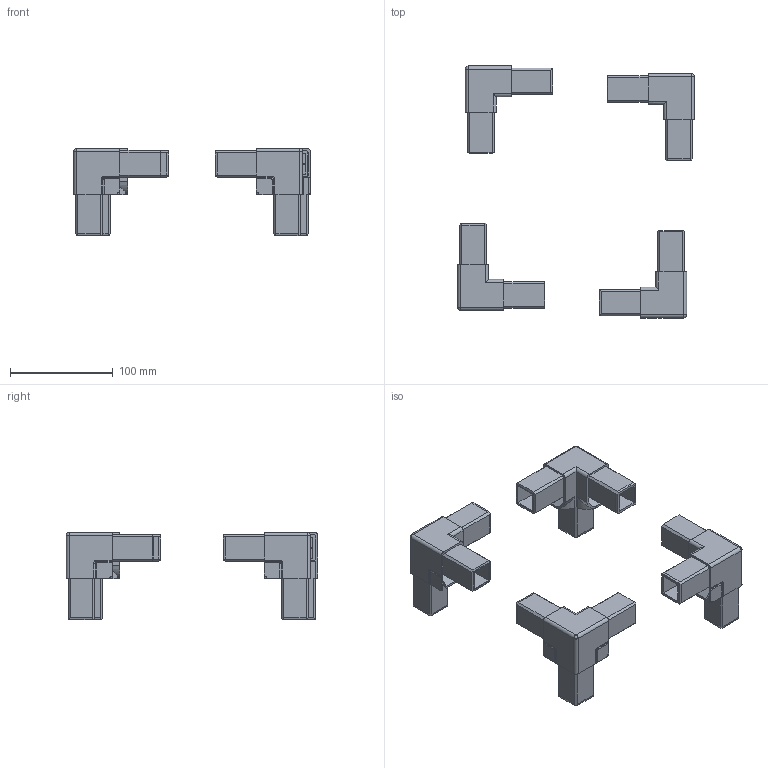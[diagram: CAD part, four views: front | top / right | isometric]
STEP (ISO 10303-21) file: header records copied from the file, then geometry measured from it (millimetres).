
FILE_DESCRIPTION (( 'STEP AP214' ), '1' );
FILE_NAME ('L15851 ENS.step', '2024-12-03T16:22:26', ( '' ), ( '' ), 'SwSTEP 2.0', 'SolidWorks 2023', '' );
FILE_SCHEMA (( 'AUTOMOTIVE_DESIGN' ));
Length unit declared in the file: millimetre
Products named in the file (2): L15851 ENS; L15851
Assembly tree (4 placements, depth 2):
  L15851 ENS
    L15851  x4
Bounding box: 230.49 x 245.48 x 85 mm (x, y, z)
Volume: 301127.9 mm3; surface area: 197758.2 mm2
Topology: 4 solids, 4 shells, 528 faces, 1600 edges, 1036 vertices
Faces by surface type: plane 384, cylinder 116, torus 24, sphere 4
Entity records: 4500 total; most frequent: CARTESIAN_POINT 834, ORIENTED_EDGE 794, DIRECTION 714, EDGE_CURVE 397, VECTOR 332, LINE 332, VERTEX_POINT 259, AXIS2_PLACEMENT_3D 191
